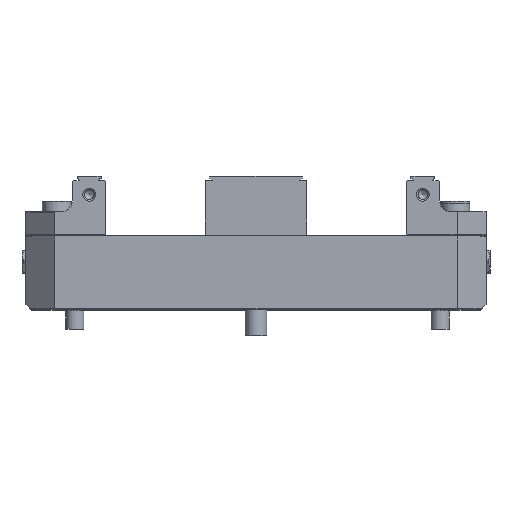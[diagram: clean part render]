
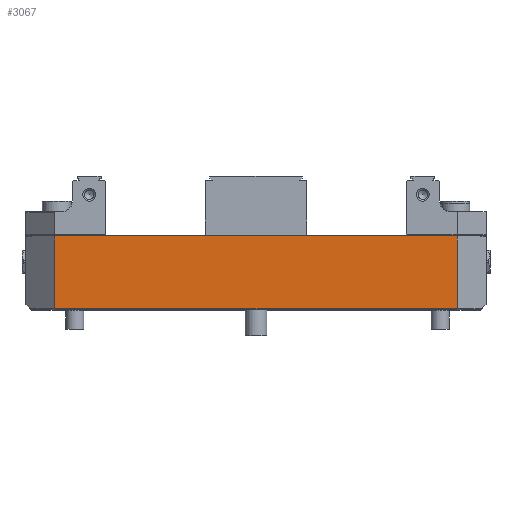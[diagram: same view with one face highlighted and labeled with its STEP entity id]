
A CAD part, top view. The second image highlights one B-rep face of the part: STEP entity #3067.
In plain terms, the highlighted planar face has unit normal (0, 0, 1).
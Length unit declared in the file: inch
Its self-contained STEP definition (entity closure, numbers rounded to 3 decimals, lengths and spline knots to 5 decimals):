
#548 = EDGE_CURVE ( 'NONE', #9394, #11214, #6748, .T. ) ;
#1575 = VERTEX_POINT ( 'NONE', #11265 ) ;
#1632 = FACE_OUTER_BOUND ( 'NONE', #23844, .T. ) ;
#3067 = ADVANCED_FACE ( 'NONE', ( #1632 ), #15962, .F. ) ;
#3112 = CARTESIAN_POINT ( 'NONE',  ( 4.375, 1.675, 2.475 ) ) ;
#3125 = CARTESIAN_POINT ( 'NONE',  ( 4.375, 1.63, 2.475 ) ) ;
#3241 = CARTESIAN_POINT ( 'NONE',  ( 4.375, 0.045, 2.475 ) ) ;
#5132 = DIRECTION ( 'NONE',  ( -1., 0., 0. ) ) ;
#6181 = CARTESIAN_POINT ( 'NONE',  ( 4.375, 0.045, 2.475 ) ) ;
#6748 = LINE ( 'NONE', #3112, #12018 ) ;
#7090 = DIRECTION ( 'NONE',  ( -1., 0., 0. ) ) ;
#7424 = DIRECTION ( 'NONE',  ( 0., -1., 0. ) ) ;
#7812 = EDGE_CURVE ( 'NONE', #1575, #9394, #11606, .T. ) ;
#8903 = CARTESIAN_POINT ( 'NONE',  ( -5., 1.675, 2.475 ) ) ;
#9145 = ORIENTED_EDGE ( 'NONE', *, *, #548, .T. ) ;
#9394 = VERTEX_POINT ( 'NONE', #3241 ) ;
#10053 = DIRECTION ( 'NONE',  ( 1., 0., 0. ) ) ;
#10440 = VERTEX_POINT ( 'NONE', #14756 ) ;
#11214 = VERTEX_POINT ( 'NONE', #3125 ) ;
#11265 = CARTESIAN_POINT ( 'NONE',  ( -4.375, 0.045, 2.475 ) ) ;
#11279 = CARTESIAN_POINT ( 'NONE',  ( -4.375, 1.675, 2.475 ) ) ;
#11606 = LINE ( 'NONE', #6181, #18652 ) ;
#12018 = VECTOR ( 'NONE', #13940, 39.37008 ) ;
#13940 = DIRECTION ( 'NONE',  ( 0., 1., 0. ) ) ;
#14272 = LINE ( 'NONE', #21678, #17815 ) ;
#14357 = VECTOR ( 'NONE', #7424, 39.37008 ) ;
#14756 = CARTESIAN_POINT ( 'NONE',  ( -4.375, 1.63, 2.475 ) ) ;
#15758 = ORIENTED_EDGE ( 'NONE', *, *, #16983, .T. ) ;
#15962 = PLANE ( 'NONE',  #21774 ) ;
#16189 = DIRECTION ( 'NONE',  ( 0., 0., -1. ) ) ;
#16983 = EDGE_CURVE ( 'NONE', #11214, #10440, #14272, .T. ) ;
#17102 = EDGE_CURVE ( 'NONE', #10440, #1575, #20434, .T. ) ;
#17815 = VECTOR ( 'NONE', #5132, 39.37008 ) ;
#18436 = ORIENTED_EDGE ( 'NONE', *, *, #7812, .T. ) ;
#18652 = VECTOR ( 'NONE', #10053, 39.37008 ) ;
#20434 = LINE ( 'NONE', #11279, #14357 ) ;
#21678 = CARTESIAN_POINT ( 'NONE',  ( -5., 1.63, 2.475 ) ) ;
#21774 = AXIS2_PLACEMENT_3D ( 'NONE', #8903, #16189, #7090 ) ;
#23023 = ORIENTED_EDGE ( 'NONE', *, *, #17102, .T. ) ;
#23844 = EDGE_LOOP ( 'NONE', ( #9145, #15758, #23023, #18436 ) ) ;
